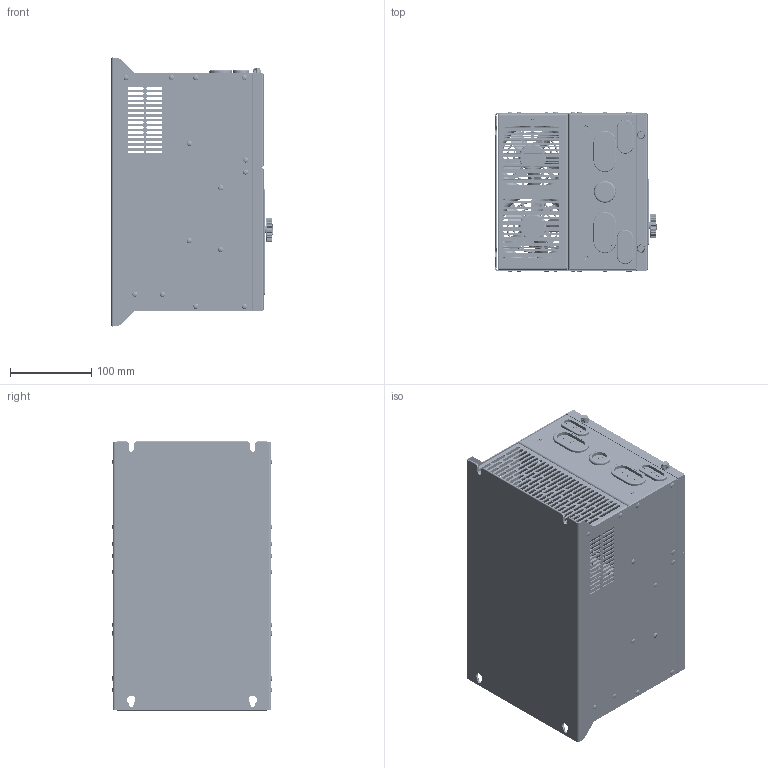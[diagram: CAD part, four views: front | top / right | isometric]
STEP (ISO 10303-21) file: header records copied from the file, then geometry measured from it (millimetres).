
FILE_DESCRIPTION((''),'2;1');
FILE_NAME('E160-18G_ASM','2022-12-09T',('500081'),(''),'CREO PARAMETRIC BY PTC INC, 2014350','CREO PARAMETRIC BY PTC INC, 2014350','');
FILE_SCHEMA(('CONFIG_CONTROL_DESIGN'));
Products named in the file (60): E160-18GT4C1-MS01; E160-18GT4C1-MS02; E160-18GT4C1-MS03; E160-18GT4C1-MS04; E160-18GT4C1-MS09; E160-18GT4C1-MS12; PANTOU-LD-M3X7; E160-18GT4C1-MA02_ASM; E160-18GT4C1-MS05; E160-18GT4C1-MS05_ASM; E160-18GT4C1-MS07; E160-18GT4C1-MS07_ASM; E160-18GT4C1-MS10; E160-18GT4C1-MS11; E160-18G-SIYIN; E160-18GT4C1-MA01_ASM; E160-18GT4C1-MH01; E160-18GT4C1-MI01; E160-18GT4C1-MI02; E160-18GT4C1-MA00_ASM; E300_KZB; JP_KZ_MUTOU; E300-VFPG4; E300_KZB_ASM; JP_JIANPANKE; JP_BOLIBAN; JP_Z_ASM; JP_PCB; 2P-SHUMAGUAN; 3P-SHUMAGUAN; 5PP_ASM; JP_QINGCHUKAIGUAN; JP_GONGTOU; JP_LED; JP_PCB_ASM; JP_JIANPANGAI; JP_JIANPANGAI_ASM; JP_CANG; 10P_MU; JP_CANG_ASM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
Assembly tree (122 placements, depth 5):
  E160-18G_ASM
    E160-18GT4C1-MA00_ASM
      E160-18GT4C1-MA01_ASM
        E160-18GT4C1-MA02_ASM
          E160-18GT4C1-MS01
          E160-18GT4C1-MS02
          E160-18GT4C1-MS03  x2
          E160-18GT4C1-MS04  x2
          E160-18GT4C1-MS09
          E160-18GT4C1-MS12  x2
          PANTOU-LD-M3X7  x28
        E160-18GT4C1-MS05_ASM
          E160-18GT4C1-MS05
        E160-18GT4C1-MS07_ASM
          E160-18GT4C1-MS07
        E160-18GT4C1-MS10
        E160-18GT4C1-MS11
        E160-18G-SIYIN
      E160-18GT4C1-MH01
      E160-18GT4C1-MI01
      E160-18GT4C1-MI02
    E300_KZB_ASM
      E300_KZB
      JP_KZ_MUTOU
      E300-VFPG4
    E300-JP-ZJ_ASM
      JP_Z_ASM
        JP_JIANPANKE
        JP_BOLIBAN
      JP_PCB_ASM
        JP_PCB
        5PP_ASM
          2P-SHUMAGUAN
          3P-SHUMAGUAN
        JP_QINGCHUKAIGUAN  x9
        JP_GONGTOU
        JP_LED  x7
      JP_JIANPANGAI_ASM
        JP_JIANPANGAI
      JP_CANG_ASM
        JP_CANG
        10P_MU
      MO-BIOAZHUN
      JP_MIANMO_ASM
        JP_MIANMO
        JP_XUANNIU
      JP_BIANMAQI
    E160-18G-QJ-ZJ_ASM
      FJ-80X80X25MM  x2
      FP75R12KT3-1200V-122X62X17MM
      WZ-R80  x2
    E160-18G-FL-ZJ_ASM
      SJ-ZHU-M3X9  x6
      M4-LS-MG  x2
      TAO_27-KK-23X3MM
      TAO_42X20-KK-39X17X2-5MM  x2
      M4R8-9R5ST  x8
      TAO_50X28-KK-46X23X3MM  x2
      CHENGTOU-LS-M4X8-7  x2
      M4-10  x2
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Bounding box: 198.9 x 197 x 332.4 mm (x, y, z)
Volume: 1463970.1 mm3; surface area: 1998255.5 mm2
Topology: 162 solids, 164 shells, 14941 faces, 39289 edges, 25297 vertices
Faces by surface type: plane 11129, cylinder 2551, torus 431, extrusion 248, cone 200, bspline 134, sphere 134, revolution 114
Entity records: 455976 total; most frequent: CARTESIAN_POINT 76364, ORIENTED_EDGE 57028, DIRECTION 54055, PRESENTATION_STYLE_ASSIGNMENT 28902, EDGE_CURVE 28516, STYLED_ITEM 26788, CURVE_STYLE 26423, VECTOR 22489
